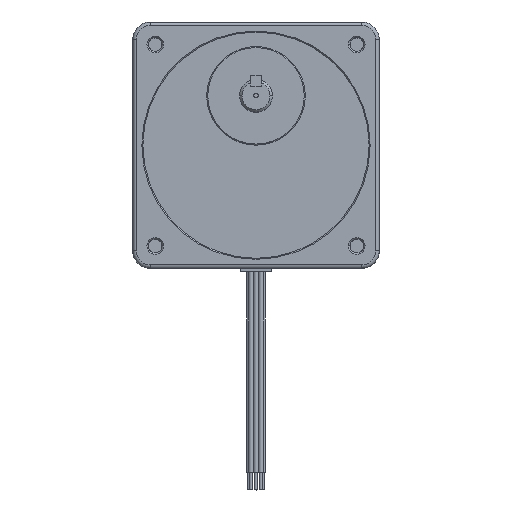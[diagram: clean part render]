
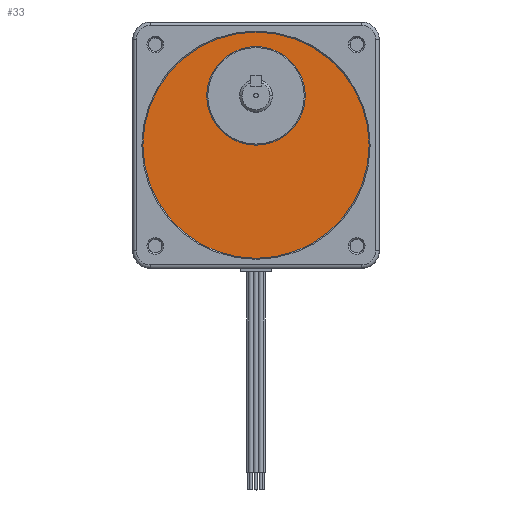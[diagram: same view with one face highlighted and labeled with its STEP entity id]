
A CAD part, top view. The second image highlights one B-rep face of the part: STEP entity #33.
In plain terms, the highlighted planar face has unit normal (0, 0, 1).
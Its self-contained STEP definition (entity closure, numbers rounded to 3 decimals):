
#10 = ORIENTED_EDGE ( 'NONE', *, *, #8104, .F. ) ;
#25 = EDGE_CURVE ( 'NONE', #14101, #8126, #16552, .T. ) ;
#33 = ADVANCED_FACE ( 'NONE', ( #16613, #16611 ), #16658, .T. ) ;
#36 = EDGE_CURVE ( 'NONE', #8159, #8161, #16651, .T. ) ;
#2347 = CARTESIAN_POINT ( 'NONE',  ( 41.275, 0., 59. ) ) ;
#2350 = DIRECTION ( 'NONE',  ( 1., 0., 0. ) ) ;
#2356 = AXIS2_PLACEMENT_3D ( 'NONE', #2375, #2368, #2350 ) ;
#2357 = CIRCLE ( 'NONE', #2356, 41.275 ) ;
#2368 = DIRECTION ( 'NONE',  ( 0., 0., 1. ) ) ;
#2375 = CARTESIAN_POINT ( 'NONE',  ( 0., 0., 59. ) ) ;
#8104 = EDGE_CURVE ( 'NONE', #8161, #8159, #19225, .T. ) ;
#8126 = VERTEX_POINT ( 'NONE', #19245 ) ;
#8159 = VERTEX_POINT ( 'NONE', #19301 ) ;
#8161 = VERTEX_POINT ( 'NONE', #19292 ) ;
#14098 = EDGE_CURVE ( 'NONE', #8126, #14101, #2357, .T. ) ;
#14101 = VERTEX_POINT ( 'NONE', #2347 ) ;
#16552 = CIRCLE ( 'NONE', #16589, 41.275 ) ;
#16580 = DIRECTION ( 'NONE',  ( 1., 0., 0. ) ) ;
#16581 = DIRECTION ( 'NONE',  ( 0., 0., 1. ) ) ;
#16582 = CARTESIAN_POINT ( 'NONE',  ( 0., 0., 59. ) ) ;
#16589 = AXIS2_PLACEMENT_3D ( 'NONE', #16582, #16581, #16580 ) ;
#16611 = FACE_BOUND ( 'NONE', #19989, .T. ) ;
#16613 = FACE_OUTER_BOUND ( 'NONE', #19790, .T. ) ;
#16644 = DIRECTION ( 'NONE',  ( 1., 0., 0. ) ) ;
#16645 = DIRECTION ( 'NONE',  ( 0., 0., 1. ) ) ;
#16646 = CARTESIAN_POINT ( 'NONE',  ( 0., 18.009, 59. ) ) ;
#16647 = AXIS2_PLACEMENT_3D ( 'NONE', #16646, #16645, #16644 ) ;
#16651 = CIRCLE ( 'NONE', #16647, 17.996 ) ;
#16652 = DIRECTION ( 'NONE',  ( 1., 0., 0. ) ) ;
#16653 = DIRECTION ( 'NONE',  ( 0., 0., 1. ) ) ;
#16654 = CARTESIAN_POINT ( 'NONE',  ( 0., 0., 59. ) ) ;
#16655 = AXIS2_PLACEMENT_3D ( 'NONE', #16654, #16653, #16652 ) ;
#16658 = PLANE ( 'NONE',  #16655 ) ;
#19190 = CARTESIAN_POINT ( 'NONE',  ( 0., 18.009, 59. ) ) ;
#19222 = DIRECTION ( 'NONE',  ( 1., 0., 0. ) ) ;
#19223 = DIRECTION ( 'NONE',  ( 0., 0., 1. ) ) ;
#19224 = AXIS2_PLACEMENT_3D ( 'NONE', #19190, #19223, #19222 ) ;
#19225 = CIRCLE ( 'NONE', #19224, 17.996 ) ;
#19245 = CARTESIAN_POINT ( 'NONE',  ( -41.275, 0., 59. ) ) ;
#19292 = CARTESIAN_POINT ( 'NONE',  ( 17.996, 18.009, 59. ) ) ;
#19301 = CARTESIAN_POINT ( 'NONE',  ( -17.996, 18.009, 59. ) ) ;
#19790 = EDGE_LOOP ( 'NONE', ( #19981, #19791 ) ) ;
#19791 = ORIENTED_EDGE ( 'NONE', *, *, #14098, .T. ) ;
#19979 = ORIENTED_EDGE ( 'NONE', *, *, #36, .F. ) ;
#19981 = ORIENTED_EDGE ( 'NONE', *, *, #25, .T. ) ;
#19989 = EDGE_LOOP ( 'NONE', ( #19979, #10 ) ) ;
